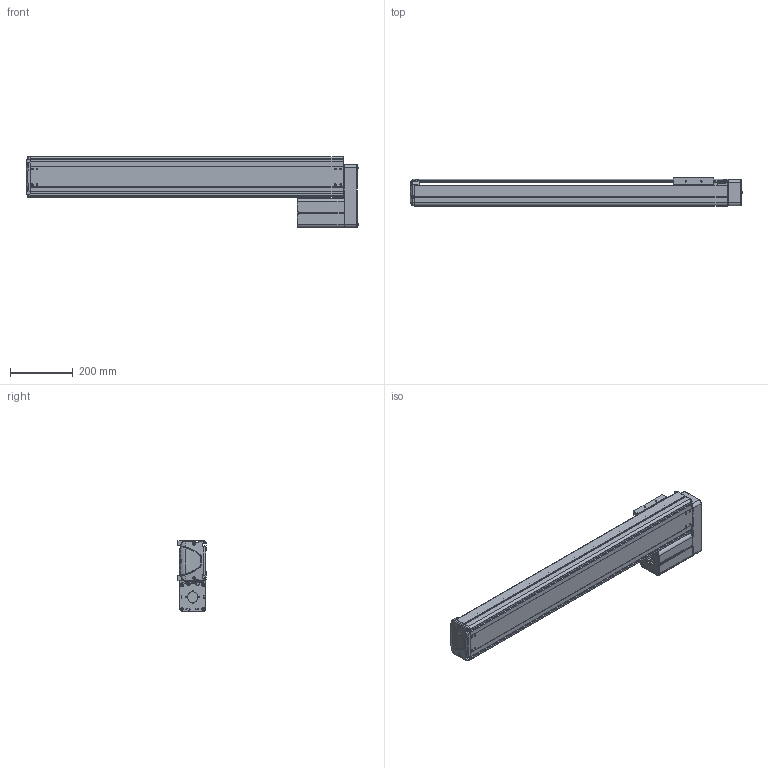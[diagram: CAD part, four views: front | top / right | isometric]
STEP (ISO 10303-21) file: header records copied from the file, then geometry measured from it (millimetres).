
FILE_DESCRIPTION((''),'2;1');
FILE_NAME('BE30E-UL-M_N-80_IGS_PRT','2017-06-17T',(' '),(''),'PRO/ENGINEER BY PARAMETRIC TECHNOLOGY CORPORATION, 2015030','PRO/ENGINEER BY PARAMETRIC TECHNOLOGY CORPORATION, 2015030','');
FILE_SCHEMA(('CONFIG_CONTROL_DESIGN'));
Length unit declared in the file: millimetre
Products named in the file (1): BE30E-UL-M_N-80_IGS_PRT
Bounding box: 1061.9 x 89.8 x 227 mm (x, y, z)
Volume: 3518118.7 mm3; surface area: 1515018.5 mm2
Topology: 2 solids, 123 shells, 2029 faces, 5460 edges, 3548 vertices
Faces by surface type: plane 990, cylinder 847, cone 103, torus 37, bspline 28, sphere 24
Entity records: 65625 total; most frequent: CARTESIAN_POINT 13872, DIRECTION 10943, ORIENTED_EDGE 10385, EDGE_CURVE 5422, AXIS2_PLACEMENT_3D 3860, VERTEX_POINT 3548, VECTOR 3223, LINE 3223
